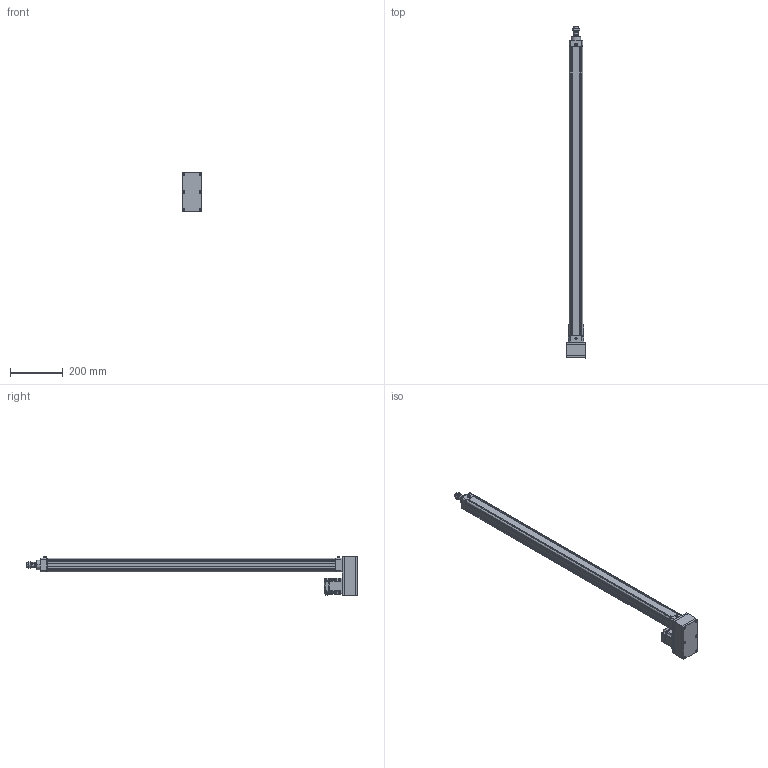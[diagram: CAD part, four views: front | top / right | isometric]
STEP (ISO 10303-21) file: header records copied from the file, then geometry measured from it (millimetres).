
FILE_DESCRIPTION((''),'2;1');
FILE_NAME('ASM0001_ASM','2020-04-07T',('ASUS20200'),(''),'CREO PARAMETRIC BY PTC INC, 2014190','CREO PARAMETRIC BY PTC INC, 2014190','');
FILE_SCHEMA(('CONFIG_CONTROL_DESIGN'));
Length unit declared in the file: millimetre
Products named in the file (23): HE40-D-P-001-X1; HE40-D-P-002-X1; HE40-D-P-003-X1; 6200ZZ; SLM-01; YZ-M6X1; JDB202820; HE40-P-010-X1-200W; _MHMF022L1A2; MHMF022L1A2M2_1_ASM; MHMF022L1A2M2_ASM; JX5X5X20; TD-5; M5X20; LM-M6X1; HE40-P-012-X2; HE40-P-014-X1; M4X65; HE40-D-P-005-X1; HE40-D-P-004-X1; HE40-D-P-008-X1; LGLM-M6-22; ASM0001_ASM
Assembly tree (39 placements, depth 4):
  ASM0001_ASM
    HE40-D-P-001-X1
    HE40-D-P-002-X1
    HE40-D-P-003-X1
    6200ZZ
    SLM-01
    YZ-M6X1
    JDB202820
    HE40-P-010-X1-200W
    MHMF022L1A2M2_ASM
      MHMF022L1A2M2_1_ASM
        _MHMF022L1A2
    JX5X5X20
    TD-5  x4
    M5X20  x4
    LM-M6X1  x4
    HE40-P-012-X2
    HE40-P-014-X1
    M4X65  x6
    HE40-D-P-005-X1
    HE40-D-P-004-X1
    HE40-D-P-008-X1
    LGLM-M6-22  x4
Bounding box: 75 x 1257.5 x 150.5 mm (x, y, z)
Volume: 1785493.5 mm3; surface area: 713652.8 mm2
Topology: 37 solids, 60 shells, 1851 faces, 4343 edges, 2662 vertices
Faces by surface type: plane 691, cylinder 531, cone 493, torus 110, sphere 22, bspline 4
Entity records: 44678 total; most frequent: CARTESIAN_POINT 8466, DIRECTION 8083, ORIENTED_EDGE 6978, EDGE_CURVE 3529, AXIS2_PLACEMENT_3D 3120, VERTEX_POINT 2181, VECTOR 1843, LINE 1843
